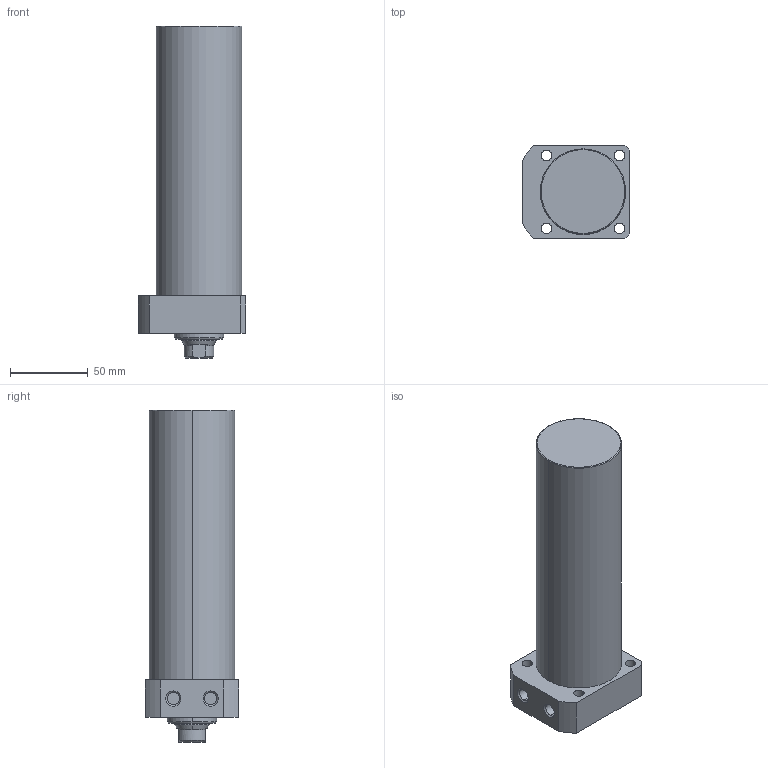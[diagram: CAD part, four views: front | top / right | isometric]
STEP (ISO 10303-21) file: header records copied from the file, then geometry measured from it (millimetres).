
FILE_DESCRIPTION (( 'STEP AP203' ), '1' );
FILE_NAME ('CLLR-055CA-145.STEP', '2019-12-17T11:45:01', ( '' ), ( '' ), 'SwSTEP 2.0', 'SolidWorks 2015', '' );
FILE_SCHEMA (( 'CONFIG_CONTROL_DESIGN' ));
Length unit declared in the file: millimetre
Products named in the file (1): CLLR-055CA-145
Bounding box: 69 x 60 x 214 mm (x, y, z)
Volume: 511021.8 mm3; surface area: 48352 mm2
Topology: 1 solids, 1 shells, 65 faces, 150 edges, 93 vertices
Faces by surface type: cylinder 29, plane 19, cone 15, torus 2
Entity records: 1959 total; most frequent: DIRECTION 348, CARTESIAN_POINT 347, ORIENTED_EDGE 296, EDGE_CURVE 148, AXIS2_PLACEMENT_3D 142, VERTEX_POINT 93, EDGE_LOOP 81, CIRCLE 76
